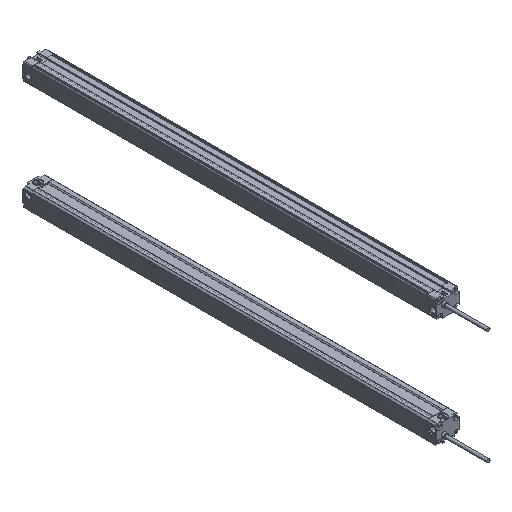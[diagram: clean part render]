
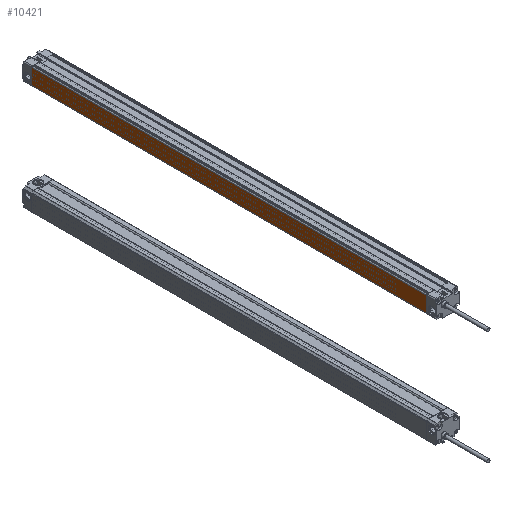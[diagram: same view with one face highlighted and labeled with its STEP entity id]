
A CAD part, isometric view. The second image highlights one B-rep face of the part: STEP entity #10421.
In plain terms, the highlighted planar face has unit normal (-1, 0, 0) as drawn and (1, 0, 0) by its records, which use the part's own axes.
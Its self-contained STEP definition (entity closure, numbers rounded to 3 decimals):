
#1083 = LINE ( 'NONE', #8592, #7579 ) ;
#1413 = VECTOR ( 'NONE', #10588, 1000. ) ;
#1492 = EDGE_CURVE ( 'NONE', #2443, #9103, #1083, .T. ) ;
#1814 = ORIENTED_EDGE ( 'NONE', *, *, #7333, .T. ) ;
#2176 = LINE ( 'NONE', #4383, #5471 ) ;
#2443 = VERTEX_POINT ( 'NONE', #9377 ) ;
#2734 = CARTESIAN_POINT ( 'NONE',  ( 12.5, -440., 8.293 ) ) ;
#3376 = EDGE_CURVE ( 'NONE', #4099, #2443, #6612, .T. ) ;
#3704 = ORIENTED_EDGE ( 'NONE', *, *, #3376, .F. ) ;
#4099 = VERTEX_POINT ( 'NONE', #9393 ) ;
#4383 = CARTESIAN_POINT ( 'NONE',  ( 12.5, -440., 8.293 ) ) ;
#4428 = DIRECTION ( 'NONE',  ( 1., 0., 0. ) ) ;
#5096 = VERTEX_POINT ( 'NONE', #5594 ) ;
#5471 = VECTOR ( 'NONE', #9484, 1000. ) ;
#5555 = DIRECTION ( 'NONE',  ( 0., 1., 0. ) ) ;
#5594 = CARTESIAN_POINT ( 'NONE',  ( 12.5, -440., -9.2 ) ) ;
#5718 = EDGE_CURVE ( 'NONE', #5096, #9103, #6022, .T. ) ;
#5889 = AXIS2_PLACEMENT_3D ( 'NONE', #2734, #4428, #10306 ) ;
#6022 = LINE ( 'NONE', #6435, #1413 ) ;
#6435 = CARTESIAN_POINT ( 'NONE',  ( 12.5, -440., -9.2 ) ) ;
#6612 = LINE ( 'NONE', #9887, #7532 ) ;
#7333 = EDGE_CURVE ( 'NONE', #4099, #5096, #2176, .T. ) ;
#7438 = ORIENTED_EDGE ( 'NONE', *, *, #5718, .T. ) ;
#7532 = VECTOR ( 'NONE', #5555, 1000. ) ;
#7579 = VECTOR ( 'NONE', #7783, 1000. ) ;
#7783 = DIRECTION ( 'NONE',  ( 0., 0., -1. ) ) ;
#7807 = PLANE ( 'NONE',  #5889 ) ;
#8592 = CARTESIAN_POINT ( 'NONE',  ( 12.5, 0., 8.293 ) ) ;
#8595 = EDGE_LOOP ( 'NONE', ( #9634, #3704, #1814, #7438 ) ) ;
#8904 = CARTESIAN_POINT ( 'NONE',  ( 12.5, 0., -9.2 ) ) ;
#9103 = VERTEX_POINT ( 'NONE', #8904 ) ;
#9377 = CARTESIAN_POINT ( 'NONE',  ( 12.5, 0., 8.293 ) ) ;
#9393 = CARTESIAN_POINT ( 'NONE',  ( 12.5, -440., 8.293 ) ) ;
#9484 = DIRECTION ( 'NONE',  ( 0., 0., -1. ) ) ;
#9634 = ORIENTED_EDGE ( 'NONE', *, *, #1492, .F. ) ;
#9887 = CARTESIAN_POINT ( 'NONE',  ( 12.5, -440., 8.293 ) ) ;
#10306 = DIRECTION ( 'NONE',  ( 0., 0., -1. ) ) ;
#10421 = ADVANCED_FACE ( 'NONE', ( #10864 ), #7807, .T. ) ;
#10588 = DIRECTION ( 'NONE',  ( 0., 1., 0. ) ) ;
#10864 = FACE_OUTER_BOUND ( 'NONE', #8595, .T. ) ;
